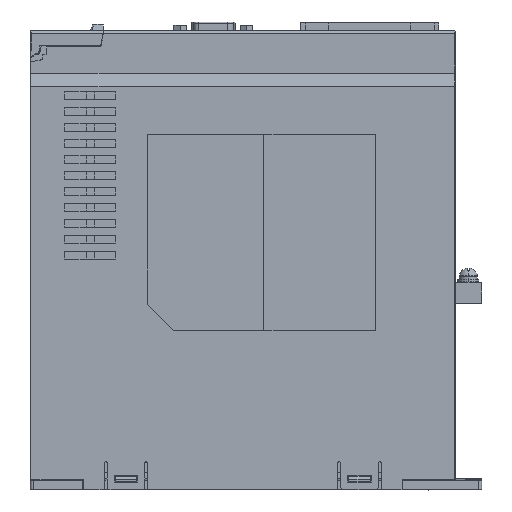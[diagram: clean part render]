
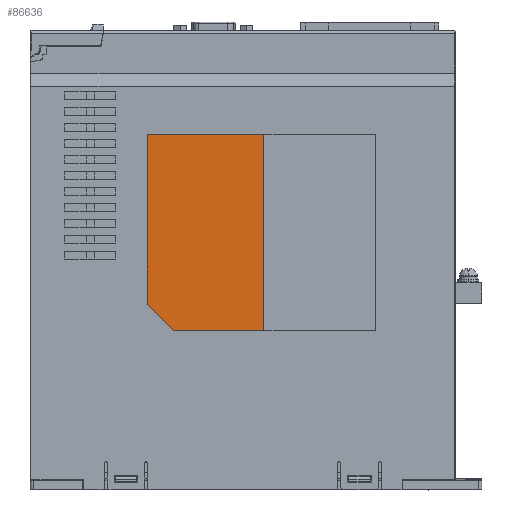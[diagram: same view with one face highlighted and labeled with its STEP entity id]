
A CAD part, left-side view. The second image highlights one B-rep face of the part: STEP entity #86636.
In plain terms, the highlighted planar face has unit normal (-1, 0, 0).
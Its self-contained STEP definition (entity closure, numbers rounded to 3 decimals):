
#39365=DIRECTION('',(0.,0.,1.));
#39366=VECTOR('',#39365,74.);
#39367=CARTESIAN_POINT('',(-25.2,-8.,60.));
#39368=LINE('',#39367,#39366);
#39369=DIRECTION('',(0.,-0.707,-0.707));
#39370=VECTOR('',#39369,14.142);
#39371=CARTESIAN_POINT('',(-25.2,36.,70.));
#39372=LINE('',#39371,#39370);
#39373=DIRECTION('',(0.,1.,0.));
#39374=VECTOR('',#39373,44.);
#39375=CARTESIAN_POINT('',(-25.2,-8.,134.));
#39376=LINE('',#39375,#39374);
#39385=DIRECTION('',(0.,1.,0.));
#39386=VECTOR('',#39385,34.);
#39387=CARTESIAN_POINT('',(-25.2,-8.,60.));
#39388=LINE('',#39387,#39386);
#39401=DIRECTION('',(0.,0.,1.));
#39402=VECTOR('',#39401,64.);
#39403=CARTESIAN_POINT('',(-25.2,36.,70.));
#39404=LINE('',#39403,#39402);
#48538=CARTESIAN_POINT('',(-25.2,-8.,134.));
#48539=VERTEX_POINT('',#48538);
#48540=CARTESIAN_POINT('',(-25.2,36.,134.));
#48541=VERTEX_POINT('',#48540);
#48542=CARTESIAN_POINT('',(-25.2,-8.,60.));
#48543=VERTEX_POINT('',#48542);
#48548=CARTESIAN_POINT('',(-25.2,26.,60.));
#48549=VERTEX_POINT('',#48548);
#48550=CARTESIAN_POINT('',(-25.2,36.,70.));
#48551=VERTEX_POINT('',#48550);
#86621=CARTESIAN_POINT('',(-25.2,14.,97.));
#86622=DIRECTION('',(1.,0.,0.));
#86623=DIRECTION('',(0.,-1.,0.));
#86624=AXIS2_PLACEMENT_3D('',#86621,#86622,#86623);
#86625=PLANE('',#86624);
#86626=ORIENTED_EDGE('',*,*,#86600,.F.);
#86628=ORIENTED_EDGE('',*,*,#86627,.T.);
#86630=ORIENTED_EDGE('',*,*,#86629,.F.);
#86632=ORIENTED_EDGE('',*,*,#86631,.T.);
#86633=ORIENTED_EDGE('',*,*,#86580,.F.);
#86634=EDGE_LOOP('',(#86626,#86628,#86630,#86632,#86633));
#86635=FACE_OUTER_BOUND('',#86634,.F.);
#86636=ADVANCED_FACE('',(#86635),#86625,.F.);
#86580=EDGE_CURVE('',#48539,#48541,#39376,.T.);
#86600=EDGE_CURVE('',#48543,#48539,#39368,.T.);
#86627=EDGE_CURVE('',#48543,#48549,#39388,.T.);
#86629=EDGE_CURVE('',#48551,#48549,#39372,.T.);
#86631=EDGE_CURVE('',#48551,#48541,#39404,.T.);
